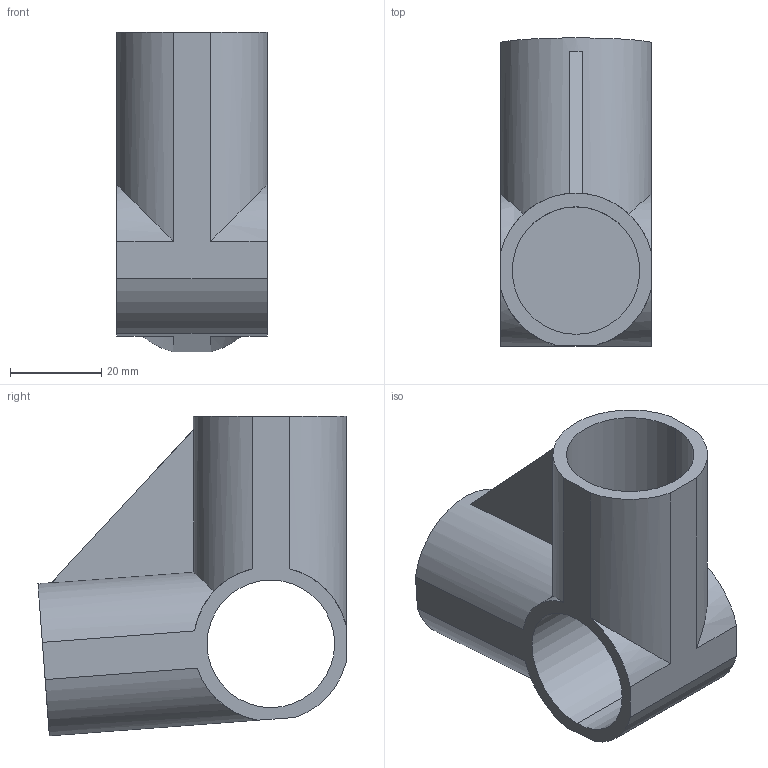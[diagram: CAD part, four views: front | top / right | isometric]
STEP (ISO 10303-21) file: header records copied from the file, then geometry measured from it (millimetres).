
FILE_DESCRIPTION (( 'STEP AP214' ), '1' );
FILE_NAME ('PJ-405.STEP', '2023-09-12T11:11:27', ( 'catia' ), ( 'HP Inc.' ), 'SwSTEP 2.0', 'SolidWorks 2021', '' );
FILE_SCHEMA (( 'AUTOMOTIVE_DESIGN' ));
Length unit declared in the file: millimetre
Products named in the file (1): PJ-405
Bounding box: 33 x 67.63 x 70.2 mm (x, y, z)
Volume: 37312.7 mm3; surface area: 20941.8 mm2
Topology: 1 solids, 1 shells, 30 faces, 78 edges, 52 vertices
Faces by surface type: cylinder 19, plane 11
Entity records: 966 total; most frequent: CARTESIAN_POINT 197, ORIENTED_EDGE 156, DIRECTION 154, EDGE_CURVE 78, AXIS2_PLACEMENT_3D 57, VERTEX_POINT 52, LINE 40, VECTOR 40
